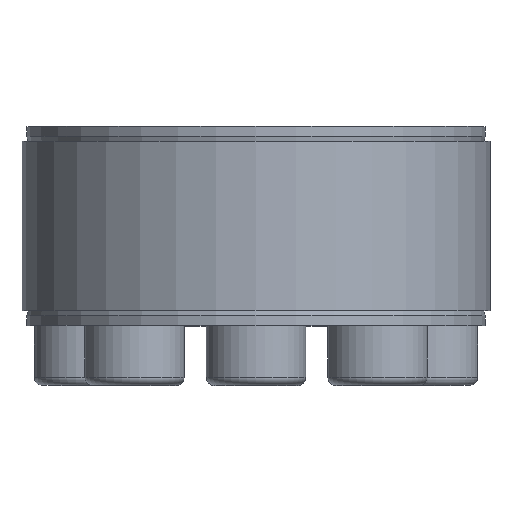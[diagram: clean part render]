
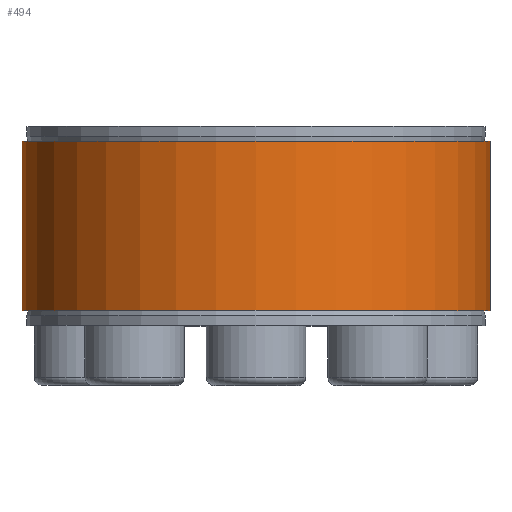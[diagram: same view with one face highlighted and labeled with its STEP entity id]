
A CAD part, top view. The second image highlights one B-rep face of the part: STEP entity #494.
In plain terms, the highlighted cylindrical face has radius 23.5 mm (diameter 47 mm), a partial arc.
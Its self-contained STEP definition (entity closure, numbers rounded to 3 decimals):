
#494 = ADVANCED_FACE( '', ( #910 ), #911, .T. );
#910 = FACE_OUTER_BOUND( '', #1507, .T. );
#911 = CYLINDRICAL_SURFACE( '', #1508, 23.5 );
#1507 = EDGE_LOOP( '', ( #2192, #2193, #2194, #2195 ) );
#1508 = AXIS2_PLACEMENT_3D( '', #2196, #2197, #2198 );
#2192 = ORIENTED_EDGE( '', *, *, #3553, .F. );
#2193 = ORIENTED_EDGE( '', *, *, #3554, .T. );
#2194 = ORIENTED_EDGE( '', *, *, #3555, .T. );
#2195 = ORIENTED_EDGE( '', *, *, #3556, .F. );
#2196 = CARTESIAN_POINT( '', ( 0., -60., 0. ) );
#2197 = DIRECTION( '', ( 0., -1., 0. ) );
#2198 = DIRECTION( '', ( 0., 0., 1. ) );
#3553 = EDGE_CURVE( '', #3976, #3977, #3978, .F. );
#3554 = EDGE_CURVE( '', #3976, #3979, #3980, .T. );
#3555 = EDGE_CURVE( '', #3979, #3981, #3982, .F. );
#3556 = EDGE_CURVE( '', #3977, #3981, #3983, .T. );
#3976 = VERTEX_POINT( '', #4536 );
#3977 = VERTEX_POINT( '', #4537 );
#3978 = LINE( '', #4538, #4539 );
#3979 = VERTEX_POINT( '', #4540 );
#3980 = CIRCLE( '', #4541, 23.5 );
#3981 = VERTEX_POINT( '', #4542 );
#3982 = LINE( '', #4543, #4544 );
#3983 = CIRCLE( '', #4545, 23.5 );
#4536 = CARTESIAN_POINT( '', ( 0.392, 8.5, -23.497 ) );
#4537 = CARTESIAN_POINT( '', ( 0.392, -8.5, -23.497 ) );
#4538 = CARTESIAN_POINT( '', ( 0.392, -60., -23.497 ) );
#4539 = VECTOR( '', #5513, 1000. );
#4540 = CARTESIAN_POINT( '', ( -0.392, 8.5, -23.497 ) );
#4541 = AXIS2_PLACEMENT_3D( '', #5514, #5515, #5516 );
#4542 = CARTESIAN_POINT( '', ( -0.392, -8.5, -23.497 ) );
#4543 = CARTESIAN_POINT( '', ( -0.392, -60., -23.497 ) );
#4544 = VECTOR( '', #5517, 1000. );
#4545 = AXIS2_PLACEMENT_3D( '', #5518, #5519, #5520 );
#5513 = DIRECTION( '', ( 0., 1., 0. ) );
#5514 = CARTESIAN_POINT( '', ( 0., 8.5, 0. ) );
#5515 = DIRECTION( '', ( 0., -1., 0. ) );
#5516 = DIRECTION( '', ( 0., 0., -1. ) );
#5517 = DIRECTION( '', ( 0., 1., 0. ) );
#5518 = CARTESIAN_POINT( '', ( 0., -8.5, 0. ) );
#5519 = DIRECTION( '', ( 0., -1., 0. ) );
#5520 = DIRECTION( '', ( 0., 0., -1. ) );
